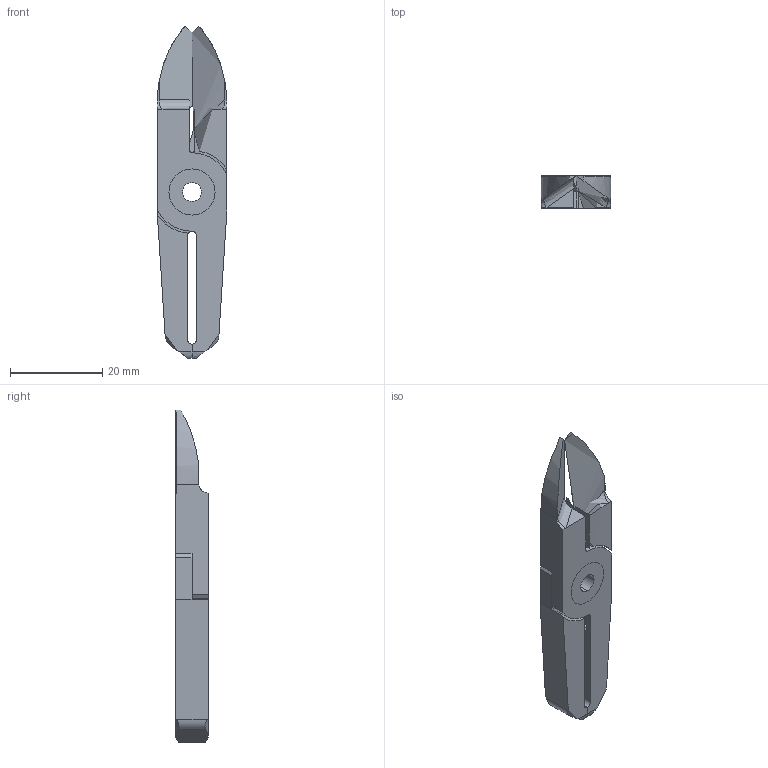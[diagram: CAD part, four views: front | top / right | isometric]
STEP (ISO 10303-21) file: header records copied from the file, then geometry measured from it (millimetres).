
FILE_DESCRIPTION (( 'STEP AP214' ), '1' );
FILE_NAME ('NT05AJL.STEP', '2019-11-28T09:12:08', ( '微软用户' ), ( '微软中国' ), 'SwSTEP 2.0', 'SolidWorks 2016', '' );
FILE_SCHEMA (( 'AUTOMOTIVE_DESIGN' ));
Length unit declared in the file: millimetre
Products named in the file (4): BR2; BR1; BS; NT05AJL
Assembly tree (3 placements, depth 2):
  NT05AJL
    BS
    BR1
    BR2
Bounding box: 15 x 7 x 72 mm (x, y, z)
Volume: 2615.7 mm3; surface area: 4430.2 mm2
Topology: 2 solids, 6 shells, 102 faces, 269 edges, 172 vertices
Faces by surface type: plane 44, cylinder 32, cone 16, bspline 10
Entity records: 3472 total; most frequent: CARTESIAN_POINT 874, DIRECTION 512, ORIENTED_EDGE 510, EDGE_CURVE 265, AXIS2_PLACEMENT_3D 177, VERTEX_POINT 172, VECTOR 158, LINE 158
